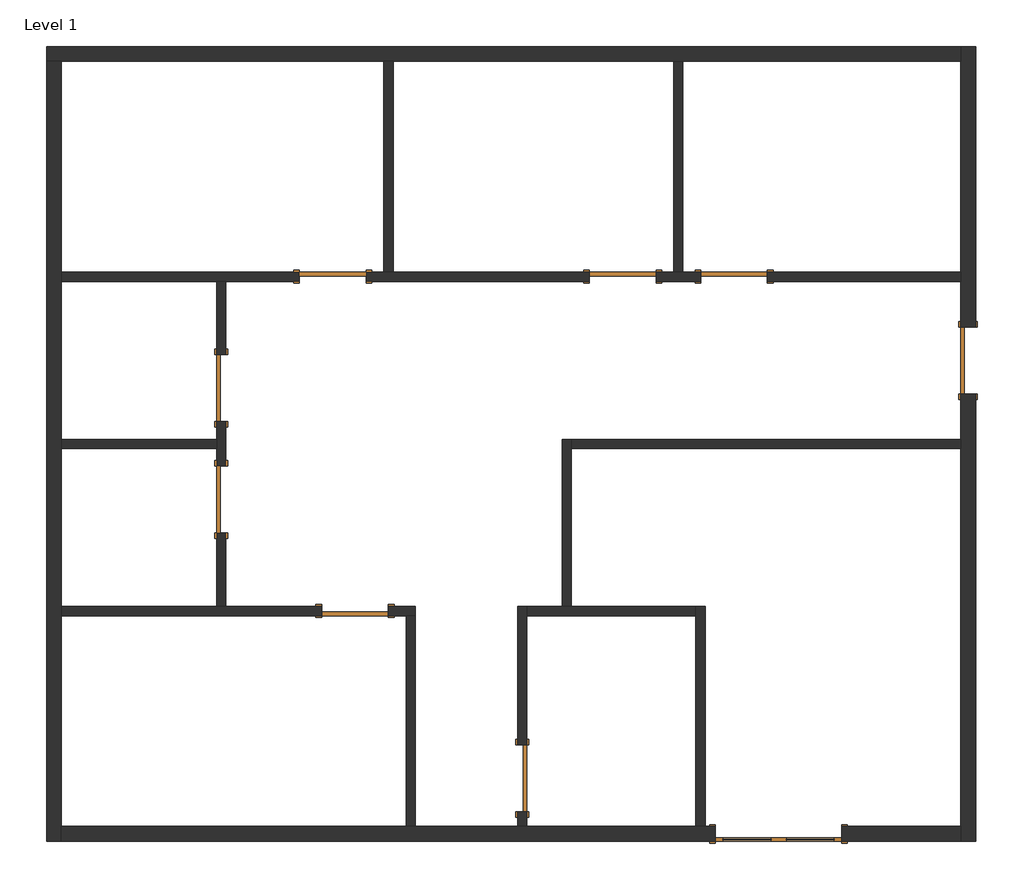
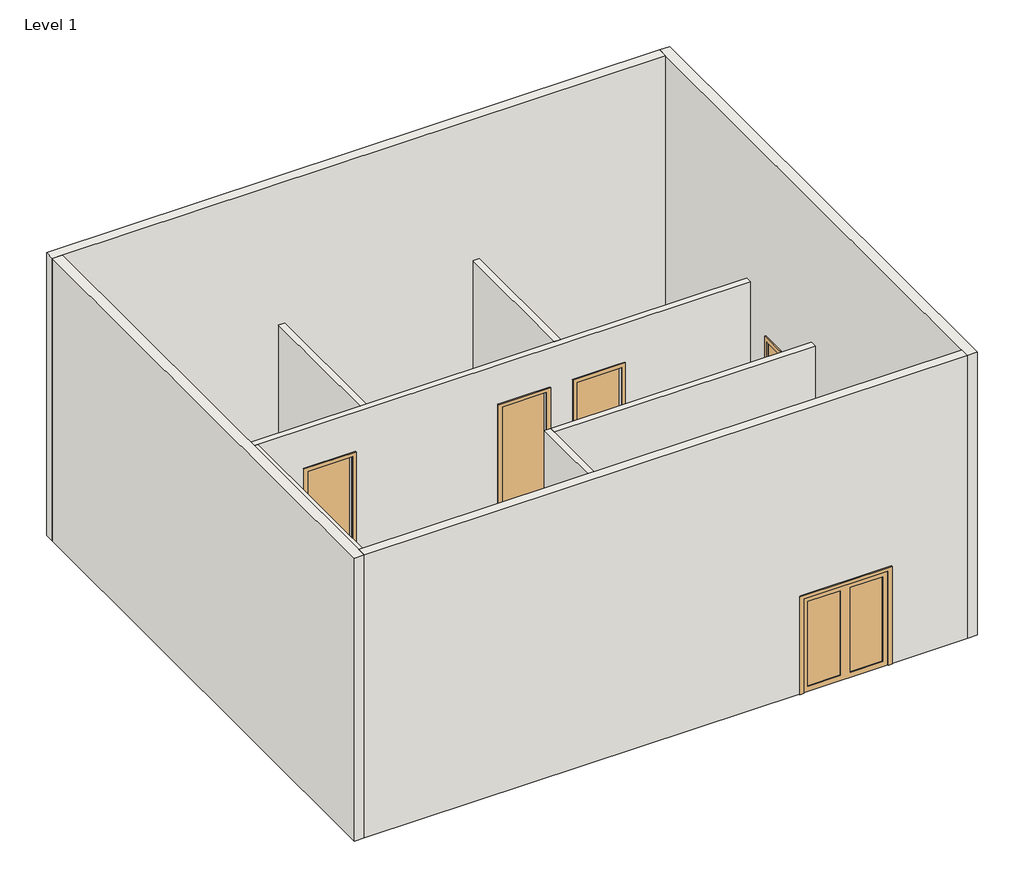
# One storey: 16 walls, 9 doors.
"""IFC4 building model written with IfcOpenShell, lengths in millimetres."""

from ifc_helpers import new_model, si_unit, origin, origin_with_axes, place, context, project, spatial, polyline, outline, extrude, faceted_brep, transform, mapped, element, save
from components import door_03927de7, door_a1797ceb, door_a3eb833a, door_54dd4da4

model = new_model("IFC4")

# Units and contexts
model_context = context("Model", 3, world=origin())
ifc_project = project(units=[si_unit("LENGTHUNIT", "METRE", prefix="MILLI")], contexts=[model_context])

# Site, building, storey
site = spatial("IfcSite", under=ifc_project)
building = spatial("IfcBuilding", under=site)
storey = spatial("IfcBuildingStorey", under=building, Name="Level 1", Elevation=0.0)

# Doors
placement = place(None, origin())
door_shape = door_03927de7(model_context)
element("IfcDoor", 1, ObjectType="Dbl-Glass 1 : 68\" x 80\"", at=placement, inside=storey, context=model_context, shape_type="MappedRepresentation", body=[
    mapped(door_shape, transform((-14419.0447105, 13264.8337084, 0.0), x_axis=(-1.0, 0.0, 0.0), y_axis=(0.0, -1.0, 0.0), z_axis=(0.0, 0.0, 1.0))),
])
door_2_shape = door_a1797ceb(model_context)
element("IfcDoor", 2, ObjectType="Sgl Flush : 36\" x 84\"", at=placement, inside=storey, context=model_context, shape_type="MappedRepresentation", body=[
    mapped(door_2_shape, transform((-22039.0447105, 17834.4596013, 0.0), x_axis=(0.0, 1.0, 0.0), y_axis=(-1.0, 0.0, 0.0), z_axis=(0.0, 0.0, 1.0))),
])
element("IfcDoor", 3, ObjectType="Sgl Flush : 36\" x 84\"", at=placement, inside=storey, context=model_context, shape_type="MappedRepresentation", body=[
    mapped(door_2_shape, transform((-20515.0447105, 20882.4596013, 0.0), x_axis=(1.0, 0.0, 0.0), y_axis=(0.0, 1.0, 0.0), z_axis=(0.0, 0.0, 1.0))),
])
element("IfcDoor", 4, ObjectType="Sgl Flush : 36\" x 84\"", at=placement, inside=storey, context=model_context, shape_type="MappedRepresentation", body=[
    mapped(door_2_shape, transform((-16552.6447105, 20882.4596013, 0.0), x_axis=(1.0, 0.0, 0.0), y_axis=(0.0, 1.0, 0.0), z_axis=(0.0, 0.0, 1.0))),
])
element("IfcDoor", 5, ObjectType="Sgl Flush : 36\" x 84\"", at=placement, inside=storey, context=model_context, shape_type="MappedRepresentation", body=[
    mapped(door_2_shape, transform((-17924.2447105, 14024.4596013, 0.0), x_axis=(0.0, -1.0, 0.0), y_axis=(1.0, 0.0, 0.0), z_axis=(0.0, 0.0, 1.0))),
])
door_3_shape = door_a3eb833a(model_context)
element("IfcDoor", 6, ObjectType="Sgl Flush : 36\" x 84\"", at=placement, inside=storey, context=model_context, shape_type="MappedRepresentation", body=[
    mapped(door_3_shape, transform((-22039.0447105, 19358.4596013, 0.0), x_axis=(0.0, -1.0, 0.0), y_axis=(1.0, 0.0, 0.0), z_axis=(0.0, 0.0, 1.0))),
])
element("IfcDoor", 7, ObjectType="Sgl Flush : 36\" x 84\"", at=placement, inside=storey, context=model_context, shape_type="MappedRepresentation", body=[
    mapped(door_3_shape, transform((-15028.6447105, 20882.4596013, 0.0), x_axis=(-1.0, 0.0, 0.0), y_axis=(0.0, -1.0, 0.0), z_axis=(0.0, 0.0, 1.0))),
])
element("IfcDoor", 8, ObjectType="Sgl Flush : 36\" x 84\"", at=placement, inside=storey, context=model_context, shape_type="MappedRepresentation", body=[
    mapped(door_3_shape, transform((-20210.2447105, 16310.4596013, 0.0), x_axis=(1.0, 0.0, 0.0), y_axis=(0.0, 1.0, 0.0), z_axis=(0.0, 0.0, 1.0))),
])
door_4_shape = door_54dd4da4(model_context)
element("IfcDoor", 9, ObjectType="Sgl Flush : 36\" x 84\"", at=placement, inside=storey, context=model_context, shape_type="MappedRepresentation", body=[
    mapped(door_4_shape, transform((-11828.2447105, 19739.4596013, 0.0), x_axis=(0.0, 1.0, 0.0), y_axis=(-1.0, 0.0, 0.0), z_axis=(0.0, 0.0, 1.0))),
])

# Walls
element("IfcWall", 10, ObjectType="Generic - 8\"", at=placement, inside=storey, context=model_context, shape_type="Brep", body=[
    faceted_brep([(-24426.6447105, 23828.8596013, 0.0), (-24223.4447105, 23828.8596013, 0.0), (-19816.5447105, 23828.8596013, 0.0), (-19689.5447105, 23828.8596013, 0.0), (-15854.1447105, 23828.8596013, 0.0), (-15727.1447105, 23828.8596013, 0.0), (-11929.8447105, 23828.8596013, 0.0), (-11929.8447105, 23828.8596013, 6096.0), (-24223.4447105, 23828.8596013, 6096.0), (-24426.6447105, 23828.8596013, 6096.0), (-24426.6447105, 24032.0596013, 0.0), (-24426.6447105, 24032.0596013, 6096.0), (-11929.8447105, 24032.0596013, 6096.0), (-11929.8447105, 24032.0596013, 0.0)], [[[0, 1, 2, 3, 4, 5, 6, 7, 8, 9]], [[10, 11, 12, 13]], [[6, 5, 4, 3, 2, 1, 0, 10, 13]], [[9, 8, 7, 12, 11]], [[0, 9, 11, 10]], [[7, 6, 13, 12]]]),
])
element("IfcWall", 11, ObjectType="Generic - 8\"", at=placement, inside=storey, context=model_context, shape_type="Brep", body=[
    faceted_brep([(-24223.4447105, 13160.8596013, 0.0), (-24223.4447105, 13364.0596013, 0.0), (-24223.4447105, 16246.9596013, 0.0), (-24223.4447105, 16373.9596013, 0.0), (-24223.4447105, 18532.9596013, 0.0), (-24223.4447105, 18659.9596013, 0.0), (-24223.4447105, 20818.9596013, 0.0), (-24223.4447105, 20945.9596013, 0.0), (-24223.4447105, 23828.8596013, 0.0), (-24223.4447105, 23828.8596013, 6096.0), (-24223.4447105, 13364.0596013, 6096.0), (-24223.4447105, 13160.8596013, 6096.0), (-24426.6447105, 13160.8596013, 0.0), (-24426.6447105, 13160.8596013, 6096.0), (-24426.6447105, 23828.8596013, 6096.0), (-24426.6447105, 23828.8596013, 0.0)], [[[0, 1, 2, 3, 4, 5, 6, 7, 8, 9, 10, 11]], [[12, 13, 14, 15]], [[8, 7, 6, 5, 4, 3, 2, 1, 0, 12, 15]], [[11, 10, 9, 14, 13]], [[0, 11, 13, 12]], [[9, 8, 15, 14]]]),
])
element("IfcWall", 12, ObjectType="Generic - 8\"", at=placement, inside=storey, context=model_context, shape_type="Brep", body=[
    faceted_brep([(-15282.6447105, 13364.0596013, 2032.0), (-15282.6447105, 13364.0596013, 0.0), (-15422.3447105, 13364.0596013, 0.0), (-15549.3447105, 13364.0596013, 0.0), (-17860.7447105, 13364.0596013, 0.0), (-17987.7447105, 13364.0596013, 0.0), (-19384.7447105, 13364.0596013, 0.0), (-19511.7447105, 13364.0596013, 0.0), (-24223.4447105, 13364.0596013, 0.0), (-24223.4447105, 13364.0596013, 6096.0), (-11929.8447105, 13364.0596013, 6096.0), (-11929.8447105, 13364.0596013, 0.0), (-13555.4447105, 13364.0596013, 0.0), (-13555.4447105, 13364.0596013, 2032.0), (-24223.4447105, 13160.8596013, 0.0), (-15282.6447105, 13160.8596013, 0.0), (-15282.6447105, 13160.8596013, 2032.0), (-13555.4447105, 13160.8596013, 2032.0), (-13555.4447105, 13160.8596013, 0.0), (-11929.8447105, 13160.8596013, 0.0), (-11929.8447105, 13160.8596013, 6096.0), (-24223.4447105, 13160.8596013, 6096.0)], [[[0, 1, 2, 3, 4, 5, 6, 7, 8, 9, 10, 11, 12, 13]], [[14, 15, 16, 17, 18, 19, 20, 21]], [[8, 7, 6, 5, 4, 3, 2, 1, 15, 14]], [[12, 11, 19, 18]], [[10, 9, 21, 20]], [[9, 8, 14, 21]], [[11, 10, 20, 19]], [[16, 15, 1, 0]], [[17, 16, 0, 13]], [[18, 17, 13, 12]]]),
])
element("IfcWall", 13, ObjectType="Generic - 8\"", at=placement, inside=storey, context=model_context, shape_type="Brep", body=[
    faceted_brep([(-11929.8447105, 24032.0596013, 0.0), (-11929.8447105, 23828.8596013, 0.0), (-11929.8447105, 20945.9596013, 0.0), (-11929.8447105, 20818.9596013, 0.0), (-11929.8447105, 20196.6596013, 0.0), (-11929.8447105, 20196.6596013, 2133.6), (-11929.8447105, 19282.2596013, 2133.6), (-11929.8447105, 19282.2596013, 0.0), (-11929.8447105, 18659.9596013, 0.0), (-11929.8447105, 18532.9596013, 0.0), (-11929.8447105, 13364.0596013, 0.0), (-11929.8447105, 13160.8596013, 0.0), (-11929.8447105, 13160.8596013, 6096.0), (-11929.8447105, 13364.0596013, 6096.0), (-11929.8447105, 23828.8596013, 6096.0), (-11929.8447105, 24032.0596013, 6096.0), (-11726.6447105, 20196.6596013, 2133.6), (-11726.6447105, 20196.6596013, 0.0), (-11726.6447105, 24032.0596013, 0.0), (-11726.6447105, 24032.0596013, 6096.0), (-11726.6447105, 13160.8596013, 6096.0), (-11726.6447105, 13160.8596013, 0.0), (-11726.6447105, 19282.2596013, 0.0), (-11726.6447105, 19282.2596013, 2133.6)], [[[0, 1, 2, 3, 4, 5, 6, 7, 8, 9, 10, 11, 12, 13, 14, 15]], [[16, 17, 18, 19, 20, 21, 22, 23]], [[18, 17, 4, 3, 2, 1, 0]], [[22, 21, 11, 10, 9, 8, 7]], [[15, 14, 13, 12, 20, 19]], [[0, 15, 19, 18]], [[12, 11, 21, 20]], [[5, 4, 17, 16]], [[6, 5, 16, 23]], [[7, 6, 23, 22]]]),
])
element("IfcWall", 14, ObjectType="Interior - 5\" Partition (2-hr)", at=placement, inside=storey, context=model_context, shape_type="Brep", body=[
    faceted_brep([(-16095.4447105, 20818.9596013, 0.0), (-15485.8447105, 20818.9596013, 0.0), (-15485.8447105, 20818.9596013, 2133.6), (-14571.4447105, 20818.9596013, 2133.6), (-14571.4447105, 20818.9596013, 0.0), (-11929.8447105, 20818.9596013, 0.0), (-11929.8447105, 20818.9596013, 3048.0), (-21975.5447105, 20818.9596013, 3048.0), (-22102.5447105, 20818.9596013, 3048.0), (-24223.4447105, 20818.9596013, 3048.0), (-24223.4447105, 20818.9596013, 0.0), (-22102.5447105, 20818.9596013, 0.0), (-21975.5447105, 20818.9596013, 0.0), (-20972.2447105, 20818.9596013, 0.0), (-20972.2447105, 20818.9596013, 2133.6), (-20057.8447105, 20818.9596013, 2133.6), (-20057.8447105, 20818.9596013, 0.0), (-17009.8447105, 20818.9596013, 0.0), (-17009.8447105, 20818.9596013, 2133.6), (-16095.4447105, 20818.9596013, 2133.6), (-15485.8447105, 20945.9596013, 2133.6), (-15485.8447105, 20945.9596013, 0.0), (-15727.1447105, 20945.9596013, 0.0), (-15854.1447105, 20945.9596013, 0.0), (-16095.4447105, 20945.9596013, 0.0), (-16095.4447105, 20945.9596013, 2133.6), (-17009.8447105, 20945.9596013, 2133.6), (-17009.8447105, 20945.9596013, 0.0), (-19689.5447105, 20945.9596013, 0.0), (-19816.5447105, 20945.9596013, 0.0), (-20057.8447105, 20945.9596013, 0.0), (-20057.8447105, 20945.9596013, 2133.6), (-20972.2447105, 20945.9596013, 2133.6), (-20972.2447105, 20945.9596013, 0.0), (-24223.4447105, 20945.9596013, 0.0), (-24223.4447105, 20945.9596013, 3048.0), (-19816.5447105, 20945.9596013, 3048.0), (-19689.5447105, 20945.9596013, 3048.0), (-15854.1447105, 20945.9596013, 3048.0), (-15727.1447105, 20945.9596013, 3048.0), (-11929.8447105, 20945.9596013, 3048.0), (-11929.8447105, 20945.9596013, 0.0), (-14571.4447105, 20945.9596013, 0.0), (-14571.4447105, 20945.9596013, 2133.6)], [[[0, 1, 2, 3, 4, 5, 6, 7, 8, 9, 10, 11, 12, 13, 14, 15, 16, 17, 18, 19]], [[20, 21, 22, 23, 24, 25, 26, 27, 28, 29, 30, 31, 32, 33, 34, 35, 36, 37, 38, 39, 40, 41, 42, 43]], [[24, 23, 22, 21, 1, 0]], [[13, 12, 11, 10, 34, 33]], [[17, 16, 30, 29, 28, 27]], [[42, 41, 5, 4]], [[9, 8, 7, 6, 40, 39, 38, 37, 36, 35]], [[10, 9, 35, 34]], [[6, 5, 41, 40]], [[31, 30, 16, 15]], [[32, 31, 15, 14]], [[33, 32, 14, 13]], [[25, 24, 0, 19]], [[26, 25, 19, 18]], [[27, 26, 18, 17]], [[2, 1, 21, 20]], [[3, 2, 20, 43]], [[4, 3, 43, 42]]]),
])
element("IfcWall", 15, ObjectType="Interior - 5\" Partition (2-hr)", at=placement, inside=storey, context=model_context, shape_type="Brep", body=[
    faceted_brep([(-19753.0447105, 16246.9596013, 2133.6), (-19753.0447105, 16246.9596013, 0.0), (-19511.7447105, 16246.9596013, 0.0), (-19384.7447105, 16246.9596013, 0.0), (-19384.7447105, 16246.9596013, 3048.0), (-19511.7447105, 16246.9596013, 3048.0), (-24223.4447105, 16246.9596013, 3048.0), (-24223.4447105, 16246.9596013, 0.0), (-20667.4447105, 16246.9596013, 0.0), (-20667.4447105, 16246.9596013, 2133.6), (-19384.7447105, 16373.9596013, 0.0), (-19753.0447105, 16373.9596013, 0.0), (-19753.0447105, 16373.9596013, 2133.6), (-20667.4447105, 16373.9596013, 2133.6), (-20667.4447105, 16373.9596013, 0.0), (-21975.5447105, 16373.9596013, 0.0), (-22102.5447105, 16373.9596013, 0.0), (-24223.4447105, 16373.9596013, 0.0), (-24223.4447105, 16373.9596013, 3048.0), (-22102.5447105, 16373.9596013, 3048.0), (-21975.5447105, 16373.9596013, 3048.0), (-19384.7447105, 16373.9596013, 3048.0)], [[[0, 1, 2, 3, 4, 5, 6, 7, 8, 9]], [[10, 11, 12, 13, 14, 15, 16, 17, 18, 19, 20, 21]], [[3, 2, 1, 11, 10]], [[8, 7, 17, 16, 15, 14]], [[6, 5, 4, 21, 20, 19, 18]], [[4, 3, 10, 21]], [[7, 6, 18, 17]], [[12, 11, 1, 0]], [[13, 12, 0, 9]], [[14, 13, 9, 8]]]),
])
element("IfcWall", 16, ObjectType="Interior - 5\" Partition (2-hr)", at=placement, inside=storey, context=model_context, shape_type="SweptSolid", body=[
    extrude(outline(polyline([(-19511.7447105, 13364.0596013), (-19511.7447105, 16246.9596013), (-19384.7447105, 16246.9596013), (-19384.7447105, 13364.0596013), (-19511.7447105, 13364.0596013)])), origin_with_axes(), (0.0, 0.0, 1.0), 3048.0),
])
element("IfcWall", 17, ObjectType="Interior - 5\" Partition (2-hr)", at=placement, inside=storey, context=model_context, shape_type="SweptSolid", body=[
    extrude(outline(polyline([(-15854.1447105, 20945.9596013), (-15854.1447105, 23828.8596013), (-15727.1447105, 23828.8596013), (-15727.1447105, 20945.9596013), (-15854.1447105, 20945.9596013)])), origin_with_axes(), (0.0, 0.0, 1.0), 3048.0),
])
element("IfcWall", 18, ObjectType="Interior - 5\" Partition (2-hr)", at=placement, inside=storey, context=model_context, shape_type="SweptSolid", body=[
    extrude(outline(polyline([(-19816.5447105, 20945.9596013), (-19816.5447105, 23828.8596013), (-19689.5447105, 23828.8596013), (-19689.5447105, 20945.9596013), (-19816.5447105, 20945.9596013)])), origin_with_axes(), (0.0, 0.0, 1.0), 3048.0),
])
element("IfcWall", 19, ObjectType="Interior - 5\" Partition (2-hr)", at=placement, inside=storey, context=model_context, shape_type="Brep", body=[
    faceted_brep([(-17860.7447105, 13364.0596013, 0.0), (-17860.7447105, 13567.2596013, 0.0), (-17860.7447105, 13567.2596013, 2133.6), (-17860.7447105, 14481.6596013, 2133.6), (-17860.7447105, 14481.6596013, 0.0), (-17860.7447105, 16246.9596013, 0.0), (-17860.7447105, 16373.9596013, 0.0), (-17860.7447105, 16373.9596013, 3048.0), (-17860.7447105, 16246.9596013, 3048.0), (-17860.7447105, 13364.0596013, 3048.0), (-17987.7447105, 13567.2596013, 2133.6), (-17987.7447105, 13567.2596013, 0.0), (-17987.7447105, 13364.0596013, 0.0), (-17987.7447105, 13364.0596013, 3048.0), (-17987.7447105, 16373.9596013, 3048.0), (-17987.7447105, 16373.9596013, 0.0), (-17987.7447105, 14481.6596013, 0.0), (-17987.7447105, 14481.6596013, 2133.6)], [[[0, 1, 2, 3, 4, 5, 6, 7, 8, 9]], [[10, 11, 12, 13, 14, 15, 16, 17]], [[12, 11, 1, 0]], [[16, 15, 6, 5, 4]], [[9, 8, 7, 14, 13]], [[7, 6, 15, 14]], [[0, 9, 13, 12]], [[2, 1, 11, 10]], [[3, 2, 10, 17]], [[4, 3, 17, 16]]]),
])
element("IfcWall", 20, ObjectType="Interior - 5\" Partition (2-hr)", at=placement, inside=storey, context=model_context, shape_type="Brep", body=[
    faceted_brep([(-15422.3447105, 13364.0596013, 0.0), (-15422.3447105, 16373.9596013, 0.0), (-15422.3447105, 16373.9596013, 3048.0), (-15422.3447105, 13364.0596013, 3048.0), (-15549.3447105, 13364.0596013, 0.0), (-15549.3447105, 13364.0596013, 3048.0), (-15549.3447105, 16246.9596013, 3048.0), (-15549.3447105, 16373.9596013, 3048.0), (-15549.3447105, 16373.9596013, 0.0), (-15549.3447105, 16246.9596013, 0.0)], [[[0, 1, 2, 3]], [[4, 5, 6, 7, 8, 9]], [[1, 0, 4, 9, 8]], [[3, 2, 7, 6, 5]], [[2, 1, 8, 7]], [[0, 3, 5, 4]]]),
])
element("IfcWall", 21, ObjectType="Interior - 5\" Partition (2-hr)", at=placement, inside=storey, context=model_context, shape_type="Brep", body=[
    faceted_brep([(-17860.7447105, 16246.9596013, 0.0), (-15549.3447105, 16246.9596013, 0.0), (-15549.3447105, 16246.9596013, 3048.0), (-17860.7447105, 16246.9596013, 3048.0), (-17860.7447105, 16373.9596013, 0.0), (-17860.7447105, 16373.9596013, 3048.0), (-17378.1447105, 16373.9596013, 3048.0), (-17251.1447105, 16373.9596013, 3048.0), (-15549.3447105, 16373.9596013, 3048.0), (-15549.3447105, 16373.9596013, 0.0), (-17251.1447105, 16373.9596013, 0.0), (-17378.1447105, 16373.9596013, 0.0)], [[[0, 1, 2, 3]], [[4, 5, 6, 7, 8, 9, 10, 11]], [[1, 0, 4, 11, 10, 9]], [[3, 2, 8, 7, 6, 5]], [[0, 3, 5, 4]], [[2, 1, 9, 8]]]),
])
element("IfcWall", 22, ObjectType="Interior - 5\" Partition (2-hr)", at=placement, inside=storey, context=model_context, shape_type="Brep", body=[
    faceted_brep([(-17251.1447105, 16373.9596013, 0.0), (-17251.1447105, 18532.9596013, 0.0), (-17251.1447105, 18659.9596013, 0.0), (-17251.1447105, 18659.9596013, 3048.0), (-17251.1447105, 18532.9596013, 3048.0), (-17251.1447105, 16373.9596013, 3048.0), (-17378.1447105, 16373.9596013, 0.0), (-17378.1447105, 16373.9596013, 3048.0), (-17378.1447105, 18659.9596013, 3048.0), (-17378.1447105, 18659.9596013, 0.0)], [[[0, 1, 2, 3, 4, 5]], [[6, 7, 8, 9]], [[2, 1, 0, 6, 9]], [[5, 4, 3, 8, 7]], [[3, 2, 9, 8]], [[0, 5, 7, 6]]]),
])
element("IfcWall", 23, ObjectType="Interior - 5\" Partition (2-hr)", at=placement, inside=storey, context=model_context, shape_type="SweptSolid", body=[
    extrude(outline(polyline([(-11929.8447105, 18532.9596013), (-17251.1447105, 18532.9596013), (-17251.1447105, 18659.9596013), (-11929.8447105, 18659.9596013), (-11929.8447105, 18532.9596013)])), origin_with_axes(), (0.0, 0.0, 1.0), 3048.0),
])
element("IfcWall", 24, ObjectType="Interior - 5\" Partition (2-hr)", at=placement, inside=storey, context=model_context, shape_type="Brep", body=[
    faceted_brep([(-21975.5447105, 18291.6596013, 0.0), (-21975.5447105, 18901.2596013, 0.0), (-21975.5447105, 18901.2596013, 2133.6), (-21975.5447105, 19815.6596013, 2133.6), (-21975.5447105, 19815.6596013, 0.0), (-21975.5447105, 20818.9596013, 0.0), (-21975.5447105, 20818.9596013, 3048.0), (-21975.5447105, 16373.9596013, 3048.0), (-21975.5447105, 16373.9596013, 0.0), (-21975.5447105, 17377.2596013, 0.0), (-21975.5447105, 17377.2596013, 2133.6), (-21975.5447105, 18291.6596013, 2133.6), (-22102.5447105, 18901.2596013, 2133.6), (-22102.5447105, 18901.2596013, 0.0), (-22102.5447105, 18659.9596013, 0.0), (-22102.5447105, 18532.9596013, 0.0), (-22102.5447105, 18291.6596013, 0.0), (-22102.5447105, 18291.6596013, 2133.6), (-22102.5447105, 17377.2596013, 2133.6), (-22102.5447105, 17377.2596013, 0.0), (-22102.5447105, 16373.9596013, 0.0), (-22102.5447105, 16373.9596013, 3048.0), (-22102.5447105, 18532.9596013, 3048.0), (-22102.5447105, 18659.9596013, 3048.0), (-22102.5447105, 20818.9596013, 3048.0), (-22102.5447105, 20818.9596013, 0.0), (-22102.5447105, 19815.6596013, 0.0), (-22102.5447105, 19815.6596013, 2133.6)], [[[0, 1, 2, 3, 4, 5, 6, 7, 8, 9, 10, 11]], [[12, 13, 14, 15, 16, 17, 18, 19, 20, 21, 22, 23, 24, 25, 26, 27]], [[16, 15, 14, 13, 1, 0]], [[9, 8, 20, 19]], [[26, 25, 5, 4]], [[7, 6, 24, 23, 22, 21]], [[8, 7, 21, 20]], [[6, 5, 25, 24]], [[17, 16, 0, 11]], [[18, 17, 11, 10]], [[19, 18, 10, 9]], [[2, 1, 13, 12]], [[3, 2, 12, 27]], [[4, 3, 27, 26]]]),
])
element("IfcWall", 25, ObjectType="Interior - 5\" Partition (2-hr)", at=placement, inside=storey, context=model_context, shape_type="SweptSolid", body=[
    extrude(outline(polyline([(-24223.4447105, 18659.9596013), (-22102.5447105, 18659.9596013), (-22102.5447105, 18532.9596013), (-24223.4447105, 18532.9596013), (-24223.4447105, 18659.9596013)])), origin_with_axes(), (0.0, 0.0, 1.0), 3048.0),
])

save(model, "model.ifc")
